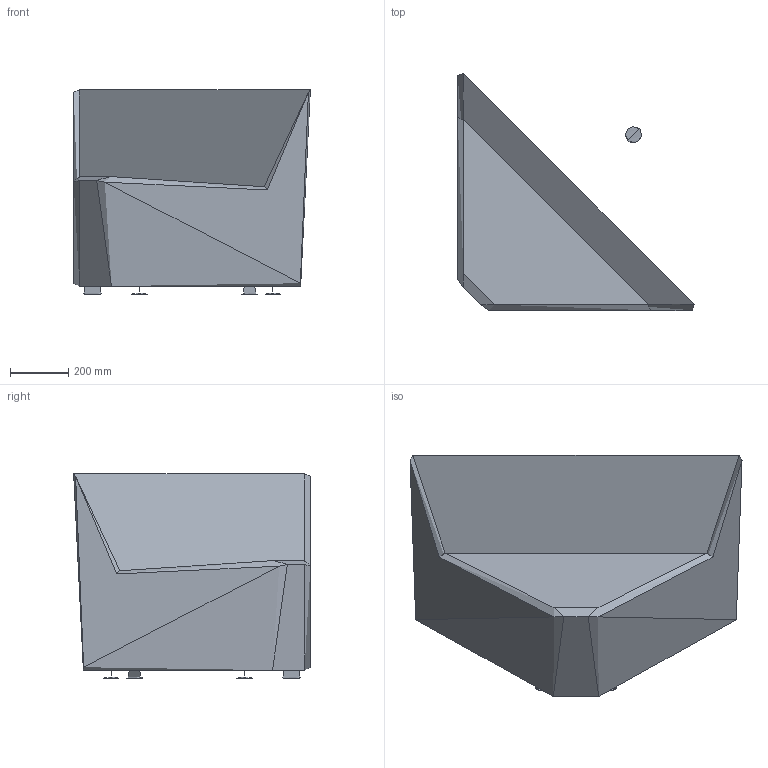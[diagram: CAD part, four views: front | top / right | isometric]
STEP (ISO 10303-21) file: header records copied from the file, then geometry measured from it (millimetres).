
FILE_DESCRIPTION(/* description */ (''),/* implementation_level */ '2;1');
FILE_NAME(/* name */ 'CLUBDR~2',/* time_stamp */ '2017-03-10T19:53:19+01:00',/* author */ (''),/* organization */ (''),/* preprocessor_version */ 'ST-DEVELOPER v15',/* originating_system */ '',/* authorisation */ '');
FILE_SCHEMA (('CONFIG_CONTROL_DESIGN'));
Length unit declared in the file: millimetre
Products named in the file (1): Document
Bounding box: 813.67 x 813.67 x 701.48 mm (x, y, z)
Surface area: 3080832.2 mm2 (no closed solid volume)
Topology: 0 solids, 7 shells, 41 faces, 99 edges, 63 vertices
Faces by surface type: bspline 36, plane 5
Entity records: 13484 total; most frequent: CARTESIAN_POINT 12853, ORIENTED_EDGE 158, EDGE_CURVE 94, VERTEX_POINT 60, B_SPLINE_CURVE_WITH_KNOTS 46, ADVANCED_FACE 41, FACE_OUTER_BOUND 41, EDGE_LOOP 41
